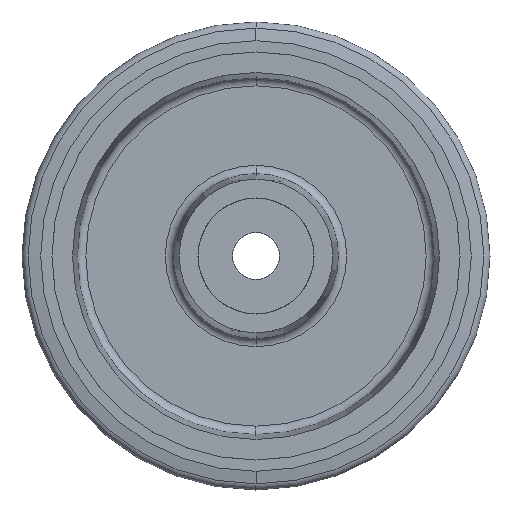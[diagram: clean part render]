
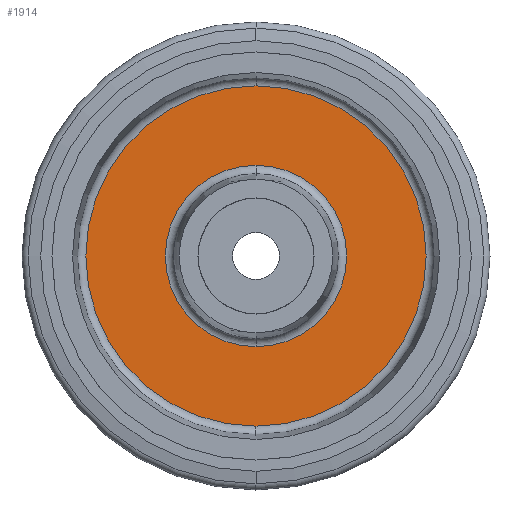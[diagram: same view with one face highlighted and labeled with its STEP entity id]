
A CAD part, left-side view. The second image highlights one B-rep face of the part: STEP entity #1914.
In plain terms, the highlighted planar face has unit normal (-1, 0, 0).
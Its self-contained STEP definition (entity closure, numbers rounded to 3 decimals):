
#75 = EDGE_LOOP ( 'NONE', ( #412, #1526 ) ) ;
#239 = VERTEX_POINT ( 'NONE', #1960 ) ;
#273 = CIRCLE ( 'NONE', #1823, 90.902 ) ;
#293 = DIRECTION ( 'NONE',  ( -1., 0., 0. ) ) ;
#308 = AXIS2_PLACEMENT_3D ( 'NONE', #1733, #293, #1766 ) ;
#387 = AXIS2_PLACEMENT_3D ( 'NONE', #1235, #455, #769 ) ;
#412 = ORIENTED_EDGE ( 'NONE', *, *, #1531, .T. ) ;
#419 = ORIENTED_EDGE ( 'NONE', *, *, #795, .F. ) ;
#455 = DIRECTION ( 'NONE',  ( -1., 0., 0. ) ) ;
#457 = DIRECTION ( 'NONE',  ( -1., 0., 0. ) ) ;
#568 = CARTESIAN_POINT ( 'NONE',  ( -5., 0., 0. ) ) ;
#595 = CARTESIAN_POINT ( 'NONE',  ( -5., 0., 0. ) ) ;
#662 = EDGE_LOOP ( 'NONE', ( #1769, #419 ) ) ;
#685 = VERTEX_POINT ( 'NONE', #1486 ) ;
#733 = CARTESIAN_POINT ( 'NONE',  ( -5., 0., 48.448 ) ) ;
#758 = EDGE_CURVE ( 'NONE', #1170, #1974, #1722, .T. ) ;
#769 = DIRECTION ( 'NONE',  ( 0., 0., 1. ) ) ;
#795 = EDGE_CURVE ( 'NONE', #1974, #1170, #2020, .T. ) ;
#861 = CIRCLE ( 'NONE', #1037, 90.902 ) ;
#982 = FACE_BOUND ( 'NONE', #662, .T. ) ;
#1032 = DIRECTION ( 'NONE',  ( 0., 0., 1. ) ) ;
#1037 = AXIS2_PLACEMENT_3D ( 'NONE', #595, #1842, #1032 ) ;
#1129 = EDGE_CURVE ( 'NONE', #685, #239, #273, .T. ) ;
#1170 = VERTEX_POINT ( 'NONE', #733 ) ;
#1235 = CARTESIAN_POINT ( 'NONE',  ( -5., 0., 0. ) ) ;
#1433 = PLANE ( 'NONE',  #1874 ) ;
#1445 = DIRECTION ( 'NONE',  ( 1., 0., 0. ) ) ;
#1454 = DIRECTION ( 'NONE',  ( 0., 0., -1. ) ) ;
#1486 = CARTESIAN_POINT ( 'NONE',  ( -5., 0., -90.902 ) ) ;
#1526 = ORIENTED_EDGE ( 'NONE', *, *, #1129, .T. ) ;
#1531 = EDGE_CURVE ( 'NONE', #239, #685, #861, .T. ) ;
#1539 = DIRECTION ( 'NONE',  ( 0., 0., 1. ) ) ;
#1625 = FACE_OUTER_BOUND ( 'NONE', #75, .T. ) ;
#1682 = CARTESIAN_POINT ( 'NONE',  ( -5., 0., -48.448 ) ) ;
#1715 = CARTESIAN_POINT ( 'NONE',  ( -5., 90.902, 0. ) ) ;
#1722 = CIRCLE ( 'NONE', #387, 48.448 ) ;
#1733 = CARTESIAN_POINT ( 'NONE',  ( -5., 0., 0. ) ) ;
#1766 = DIRECTION ( 'NONE',  ( 0., 0., 1. ) ) ;
#1769 = ORIENTED_EDGE ( 'NONE', *, *, #758, .F. ) ;
#1823 = AXIS2_PLACEMENT_3D ( 'NONE', #568, #457, #1539 ) ;
#1842 = DIRECTION ( 'NONE',  ( -1., 0., 0. ) ) ;
#1874 = AXIS2_PLACEMENT_3D ( 'NONE', #1715, #1445, #1454 ) ;
#1914 = ADVANCED_FACE ( 'NONE', ( #982, #1625 ), #1433, .F. ) ;
#1960 = CARTESIAN_POINT ( 'NONE',  ( -5., 0., 90.902 ) ) ;
#1974 = VERTEX_POINT ( 'NONE', #1682 ) ;
#2020 = CIRCLE ( 'NONE', #308, 48.448 ) ;
